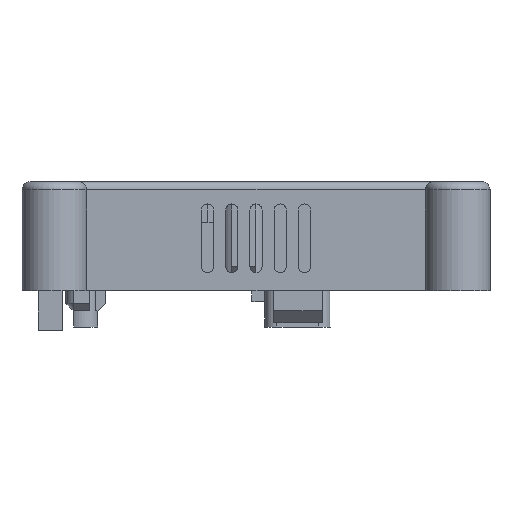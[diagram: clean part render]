
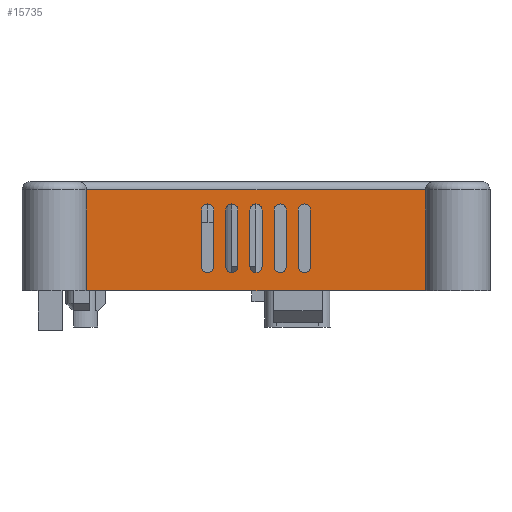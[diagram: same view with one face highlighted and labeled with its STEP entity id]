
A CAD part, left-side view. The second image highlights one B-rep face of the part: STEP entity #15735.
In plain terms, the highlighted planar face has unit normal (-1, 0, 0).
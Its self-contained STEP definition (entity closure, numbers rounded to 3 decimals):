
#903=FACE_BOUND('',#3007,.T.);
#904=FACE_BOUND('',#3008,.T.);
#905=FACE_BOUND('',#3009,.T.);
#906=FACE_BOUND('',#3010,.T.);
#907=FACE_BOUND('',#3011,.T.);
#1144=CIRCLE('',#16122,0.75);
#1146=CIRCLE('',#16126,0.75);
#1148=CIRCLE('',#16130,0.75);
#1150=CIRCLE('',#16134,0.75);
#1152=CIRCLE('',#16138,0.75);
#1154=CIRCLE('',#16142,0.75);
#1156=CIRCLE('',#16146,0.75);
#1158=CIRCLE('',#16150,0.75);
#1160=CIRCLE('',#16154,0.75);
#1162=CIRCLE('',#16158,0.75);
#2008=FACE_OUTER_BOUND('',#3006,.T.);
#3006=EDGE_LOOP('',(#14417,#14418,#14419,#14420));
#3007=EDGE_LOOP('',(#14421,#14422,#14423,#14424));
#3008=EDGE_LOOP('',(#14425,#14426,#14427,#14428));
#3009=EDGE_LOOP('',(#14429,#14430,#14431,#14432));
#3010=EDGE_LOOP('',(#14433,#14434,#14435,#14436));
#3011=EDGE_LOOP('',(#14437,#14438,#14439,#14440));
#3057=LINE('',#20194,#4647);
#3095=LINE('',#20284,#4685);
#3684=LINE('',#22538,#5274);
#3688=LINE('',#22549,#5278);
#3692=LINE('',#22562,#5282);
#3696=LINE('',#22573,#5286);
#3700=LINE('',#22586,#5290);
#3704=LINE('',#22597,#5294);
#3708=LINE('',#22610,#5298);
#3712=LINE('',#22621,#5302);
#3716=LINE('',#22634,#5306);
#3720=LINE('',#22645,#5310);
#4600=LINE('',#27035,#6190);
#4601=LINE('',#27037,#6191);
#4647=VECTOR('',#16731,10.);
#4685=VECTOR('',#16797,10.);
#5274=VECTOR('',#18108,10.);
#5278=VECTOR('',#18120,10.);
#5282=VECTOR('',#18132,10.);
#5286=VECTOR('',#18144,10.);
#5290=VECTOR('',#18156,10.);
#5294=VECTOR('',#18168,10.);
#5298=VECTOR('',#18180,10.);
#5302=VECTOR('',#18192,10.);
#5306=VECTOR('',#18204,10.);
#5310=VECTOR('',#18216,10.);
#6190=VECTOR('',#20084,10.);
#6191=VECTOR('',#20087,10.);
#6230=VERTEX_POINT('',#20191);
#6231=VERTEX_POINT('',#20193);
#6264=VERTEX_POINT('',#20271);
#6269=VERTEX_POINT('',#20282);
#7087=VERTEX_POINT('',#22528);
#7088=VERTEX_POINT('',#22529);
#7091=VERTEX_POINT('',#22537);
#7093=VERTEX_POINT('',#22543);
#7095=VERTEX_POINT('',#22552);
#7096=VERTEX_POINT('',#22553);
#7099=VERTEX_POINT('',#22561);
#7101=VERTEX_POINT('',#22567);
#7103=VERTEX_POINT('',#22576);
#7104=VERTEX_POINT('',#22577);
#7107=VERTEX_POINT('',#22585);
#7109=VERTEX_POINT('',#22591);
#7111=VERTEX_POINT('',#22600);
#7112=VERTEX_POINT('',#22601);
#7115=VERTEX_POINT('',#22609);
#7117=VERTEX_POINT('',#22615);
#7119=VERTEX_POINT('',#22624);
#7120=VERTEX_POINT('',#22625);
#7123=VERTEX_POINT('',#22633);
#7125=VERTEX_POINT('',#22639);
#7737=EDGE_CURVE('',#6231,#6230,#3057,.T.);
#7782=EDGE_CURVE('',#6269,#6264,#3095,.T.);
#8722=EDGE_CURVE('',#7087,#7088,#1144,.T.);
#8726=EDGE_CURVE('',#7091,#7087,#3684,.T.);
#8729=EDGE_CURVE('',#7093,#7091,#1146,.T.);
#8732=EDGE_CURVE('',#7088,#7093,#3688,.T.);
#8734=EDGE_CURVE('',#7095,#7096,#1148,.T.);
#8738=EDGE_CURVE('',#7099,#7095,#3692,.T.);
#8741=EDGE_CURVE('',#7101,#7099,#1150,.T.);
#8744=EDGE_CURVE('',#7096,#7101,#3696,.T.);
#8746=EDGE_CURVE('',#7103,#7104,#1152,.T.);
#8750=EDGE_CURVE('',#7107,#7103,#3700,.T.);
#8753=EDGE_CURVE('',#7109,#7107,#1154,.T.);
#8756=EDGE_CURVE('',#7104,#7109,#3704,.T.);
#8758=EDGE_CURVE('',#7111,#7112,#1156,.T.);
#8762=EDGE_CURVE('',#7115,#7111,#3708,.T.);
#8765=EDGE_CURVE('',#7117,#7115,#1158,.T.);
#8768=EDGE_CURVE('',#7112,#7117,#3712,.T.);
#8770=EDGE_CURVE('',#7119,#7120,#1160,.T.);
#8774=EDGE_CURVE('',#7123,#7119,#3716,.T.);
#8777=EDGE_CURVE('',#7125,#7123,#1162,.T.);
#8780=EDGE_CURVE('',#7120,#7125,#3720,.T.);
#9939=EDGE_CURVE('',#6269,#6231,#4600,.T.);
#9940=EDGE_CURVE('',#6230,#6264,#4601,.T.);
#14417=ORIENTED_EDGE('',*,*,#7782,.F.);
#14418=ORIENTED_EDGE('',*,*,#9939,.T.);
#14419=ORIENTED_EDGE('',*,*,#7737,.T.);
#14420=ORIENTED_EDGE('',*,*,#9940,.T.);
#14421=ORIENTED_EDGE('',*,*,#8722,.T.);
#14422=ORIENTED_EDGE('',*,*,#8732,.T.);
#14423=ORIENTED_EDGE('',*,*,#8729,.T.);
#14424=ORIENTED_EDGE('',*,*,#8726,.T.);
#14425=ORIENTED_EDGE('',*,*,#8734,.T.);
#14426=ORIENTED_EDGE('',*,*,#8744,.T.);
#14427=ORIENTED_EDGE('',*,*,#8741,.T.);
#14428=ORIENTED_EDGE('',*,*,#8738,.T.);
#14429=ORIENTED_EDGE('',*,*,#8746,.T.);
#14430=ORIENTED_EDGE('',*,*,#8756,.T.);
#14431=ORIENTED_EDGE('',*,*,#8753,.T.);
#14432=ORIENTED_EDGE('',*,*,#8750,.T.);
#14433=ORIENTED_EDGE('',*,*,#8758,.T.);
#14434=ORIENTED_EDGE('',*,*,#8768,.T.);
#14435=ORIENTED_EDGE('',*,*,#8765,.T.);
#14436=ORIENTED_EDGE('',*,*,#8762,.T.);
#14437=ORIENTED_EDGE('',*,*,#8770,.T.);
#14438=ORIENTED_EDGE('',*,*,#8780,.T.);
#14439=ORIENTED_EDGE('',*,*,#8777,.T.);
#14440=ORIENTED_EDGE('',*,*,#8774,.T.);
#14922=PLANE('',#16659);
#15735=ADVANCED_FACE('',(#2008,#903,#904,#905,#906,#907),#14922,.T.);
#16122=AXIS2_PLACEMENT_3D('',#22530,#18100,#18101);
#16126=AXIS2_PLACEMENT_3D('',#22544,#18113,#18114);
#16130=AXIS2_PLACEMENT_3D('',#22554,#18124,#18125);
#16134=AXIS2_PLACEMENT_3D('',#22568,#18137,#18138);
#16138=AXIS2_PLACEMENT_3D('',#22578,#18148,#18149);
#16142=AXIS2_PLACEMENT_3D('',#22592,#18161,#18162);
#16146=AXIS2_PLACEMENT_3D('',#22602,#18172,#18173);
#16150=AXIS2_PLACEMENT_3D('',#22616,#18185,#18186);
#16154=AXIS2_PLACEMENT_3D('',#22626,#18196,#18197);
#16158=AXIS2_PLACEMENT_3D('',#22640,#18209,#18210);
#16659=AXIS2_PLACEMENT_3D('',#27041,#20094,#20095);
#16731=DIRECTION('',(0.,-1.,0.));
#16797=DIRECTION('',(0.,-1.,0.));
#18100=DIRECTION('center_axis',(1.,0.,0.));
#18101=DIRECTION('ref_axis',(0.,1.,0.));
#18108=DIRECTION('',(0.,0.,-1.));
#18113=DIRECTION('center_axis',(1.,0.,0.));
#18114=DIRECTION('ref_axis',(0.,-1.,0.));
#18120=DIRECTION('',(0.,0.,1.));
#18124=DIRECTION('center_axis',(1.,0.,0.));
#18125=DIRECTION('ref_axis',(0.,1.,0.));
#18132=DIRECTION('',(0.,0.,1.));
#18137=DIRECTION('center_axis',(1.,0.,0.));
#18138=DIRECTION('ref_axis',(0.,-1.,0.));
#18144=DIRECTION('',(0.,0.,-1.));
#18148=DIRECTION('center_axis',(1.,0.,0.));
#18149=DIRECTION('ref_axis',(0.,1.,0.));
#18156=DIRECTION('',(0.,0.,-1.));
#18161=DIRECTION('center_axis',(1.,0.,0.));
#18162=DIRECTION('ref_axis',(0.,-1.,0.));
#18168=DIRECTION('',(0.,0.,1.));
#18172=DIRECTION('center_axis',(1.,0.,0.));
#18173=DIRECTION('ref_axis',(0.,1.,0.));
#18180=DIRECTION('',(0.,0.,-1.));
#18185=DIRECTION('center_axis',(1.,0.,0.));
#18186=DIRECTION('ref_axis',(0.,-1.,0.));
#18192=DIRECTION('',(0.,0.,1.));
#18196=DIRECTION('center_axis',(1.,0.,0.));
#18197=DIRECTION('ref_axis',(0.,1.,0.));
#18204=DIRECTION('',(0.,0.,-1.));
#18209=DIRECTION('center_axis',(1.,0.,0.));
#18210=DIRECTION('ref_axis',(0.,-1.,0.));
#18216=DIRECTION('',(0.,0.,1.));
#20084=DIRECTION('',(0.,0.,-1.));
#20087=DIRECTION('',(0.,0.,1.));
#20094=DIRECTION('center_axis',(-1.,0.,0.));
#20095=DIRECTION('ref_axis',(0.,-1.,0.));
#20191=CARTESIAN_POINT('',(-53.,-21.,0.));
#20193=CARTESIAN_POINT('',(-53.,21.,0.));
#20194=CARTESIAN_POINT('',(-53.,29.,0.));
#20271=CARTESIAN_POINT('',(-53.,-21.,12.5));
#20282=CARTESIAN_POINT('',(-53.,21.,12.5));
#20284=CARTESIAN_POINT('',(-53.,14.5,12.5));
#22528=CARTESIAN_POINT('',(-53.,-3.75,3.));
#22529=CARTESIAN_POINT('',(-53.,-2.25,3.));
#22530=CARTESIAN_POINT('Origin',(-53.,-3.,3.));
#22537=CARTESIAN_POINT('',(-53.,-3.75,10.));
#22538=CARTESIAN_POINT('',(-53.,-3.75,5.));
#22543=CARTESIAN_POINT('',(-53.,-2.25,10.));
#22544=CARTESIAN_POINT('Origin',(-53.,-3.,10.));
#22549=CARTESIAN_POINT('',(-53.,-2.25,1.5));
#22552=CARTESIAN_POINT('',(-53.,3.75,10.));
#22553=CARTESIAN_POINT('',(-53.,2.25,10.));
#22554=CARTESIAN_POINT('Origin',(-53.,3.,10.));
#22561=CARTESIAN_POINT('',(-53.,3.75,3.));
#22562=CARTESIAN_POINT('',(-53.,3.75,1.5));
#22567=CARTESIAN_POINT('',(-53.,2.25,3.));
#22568=CARTESIAN_POINT('Origin',(-53.,3.,3.));
#22573=CARTESIAN_POINT('',(-53.,2.25,5.));
#22576=CARTESIAN_POINT('',(-53.,-0.75,3.));
#22577=CARTESIAN_POINT('',(-53.,0.75,3.));
#22578=CARTESIAN_POINT('Origin',(-53.,0.,3.));
#22585=CARTESIAN_POINT('',(-53.,-0.75,10.));
#22586=CARTESIAN_POINT('',(-53.,-0.75,5.));
#22591=CARTESIAN_POINT('',(-53.,0.75,10.));
#22592=CARTESIAN_POINT('Origin',(-53.,0.,10.));
#22597=CARTESIAN_POINT('',(-53.,0.75,1.5));
#22600=CARTESIAN_POINT('',(-53.,5.25,3.));
#22601=CARTESIAN_POINT('',(-53.,6.75,3.));
#22602=CARTESIAN_POINT('Origin',(-53.,6.,3.));
#22609=CARTESIAN_POINT('',(-53.,5.25,10.));
#22610=CARTESIAN_POINT('',(-53.,5.25,5.));
#22615=CARTESIAN_POINT('',(-53.,6.75,10.));
#22616=CARTESIAN_POINT('Origin',(-53.,6.,10.));
#22621=CARTESIAN_POINT('',(-53.,6.75,1.5));
#22624=CARTESIAN_POINT('',(-53.,-6.75,3.));
#22625=CARTESIAN_POINT('',(-53.,-5.25,3.));
#22626=CARTESIAN_POINT('Origin',(-53.,-6.,3.));
#22633=CARTESIAN_POINT('',(-53.,-6.75,10.));
#22634=CARTESIAN_POINT('',(-53.,-6.75,5.));
#22639=CARTESIAN_POINT('',(-53.,-5.25,10.));
#22640=CARTESIAN_POINT('Origin',(-53.,-6.,10.));
#22645=CARTESIAN_POINT('',(-53.,-5.25,1.5));
#27035=CARTESIAN_POINT('',(-53.,21.,0.));
#27037=CARTESIAN_POINT('',(-53.,-21.,6.75));
#27041=CARTESIAN_POINT('Origin',(-53.,29.,0.));
